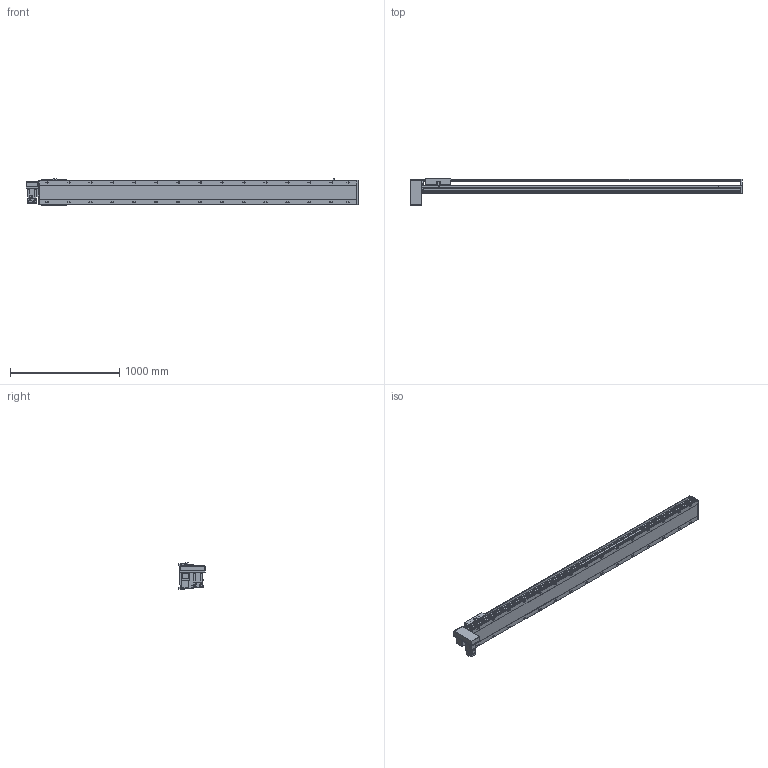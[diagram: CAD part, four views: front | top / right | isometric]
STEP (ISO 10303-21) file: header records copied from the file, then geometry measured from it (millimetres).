
FILE_DESCRIPTION(/* description */ ('STEP AP214'),/* implementation_level */ '2;1');
FILE_NAME(/* name */ 'PBS220-P40-S2550-RD-T75-C1-N(0)',/* time_stamp */ '2022-06-13T02:46:42+02:00',/* author */ ('License CC BY-ND 4.0'),/* organization */ ('CADENAS'),/* preprocessor_version */ 'ST-DEVELOPER v18.102',/* originating_system */ 'PARTsolutions',/* authorisation */ ' ');
FILE_SCHEMA (('AUTOMOTIVE_DESIGN {1 0 10303 214 3 1 1}'));
Length unit declared in the file: millimetre
Products named in the file (7): PBS220-P40-S2550-RD-T75-C1-N(0); PBS220_sensor; PBS220_plant; PBS220_sliser; T75-p1; PBS220T-RD_motors; PBS220-S2550()_body
Assembly tree (8 placements, depth 2):
  PBS220-P40-S2550-RD-T75-C1-N(0)
    PBS220_sensor  x3
    PBS220_plant
    PBS220_sliser
    T75-p1
    PBS220T-RD_motors
    PBS220-S2550()_body
Bounding box: 3034 x 239 x 238.5 mm (x, y, z)
Volume: 42332648.5 mm3; surface area: 3876456.3 mm2
Topology: 8 solids, 8 shells, 998 faces, 2592 edges, 1684 vertices
Faces by surface type: plane 626, cylinder 318, cone 54
Full cylindrical faces by diameter (mm): 2.013 x4, 4.5 x14, 4.917 x4, 6 x7, 6.647 x8, 8 x10, 8.376 x30, 8.5 x30, 10 x6, 14 x30, 38 x2, 40 x1, 70 x1
Entity records: 27813 total; most frequent: CARTESIAN_POINT 4954, DIRECTION 4833, ORIENTED_EDGE 4358, EDGE_CURVE 2179, AXIS2_PLACEMENT_3D 1737, VERTEX_POINT 1528, LINE 1359, VECTOR 1359
